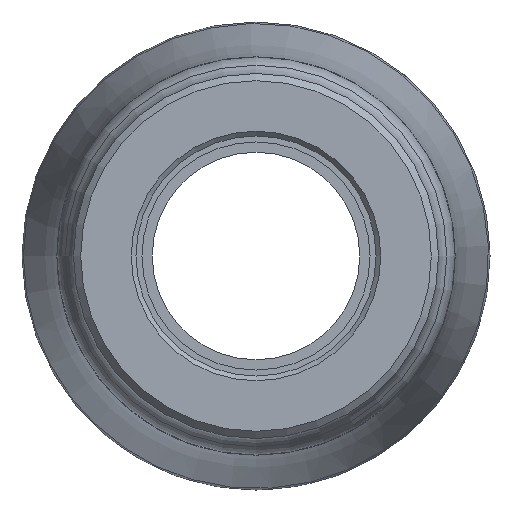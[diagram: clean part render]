
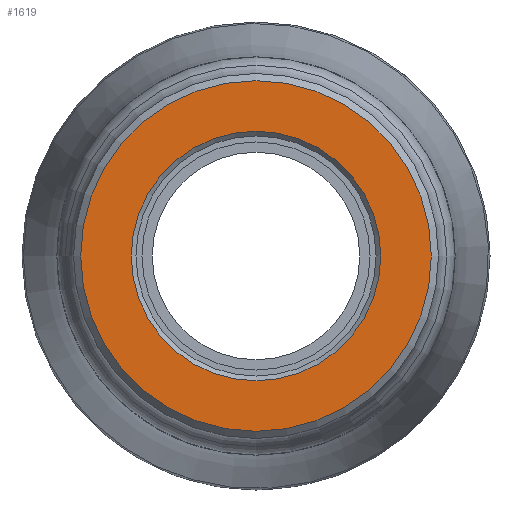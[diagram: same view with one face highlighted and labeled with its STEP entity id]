
A CAD part, left-side view. The second image highlights one B-rep face of the part: STEP entity #1619.
In plain terms, the highlighted planar face has unit normal (-1, 0, 0).
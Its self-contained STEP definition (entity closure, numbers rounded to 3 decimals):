
#29=FACE_BOUND('',#401,.T.);
#212=PLANE('',#1776);
#290=FACE_OUTER_BOUND('',#400,.T.);
#400=EDGE_LOOP('',(#1219));
#401=EDGE_LOOP('',(#1220));
#542=CIRCLE('',#1775,12.529);
#543=CIRCLE('',#1777,17.606);
#728=VERTEX_POINT('',#2890);
#729=VERTEX_POINT('',#2893);
#910=EDGE_CURVE('',#728,#728,#542,.T.);
#911=EDGE_CURVE('',#729,#729,#543,.T.);
#1219=ORIENTED_EDGE('',*,*,#911,.F.);
#1220=ORIENTED_EDGE('',*,*,#910,.F.);
#1619=ADVANCED_FACE('',(#290,#29),#212,.T.);
#1775=AXIS2_PLACEMENT_3D('',#2891,#2067,#2068);
#1776=AXIS2_PLACEMENT_3D('',#2892,#2069,#2070);
#1777=AXIS2_PLACEMENT_3D('',#2894,#2071,#2072);
#2067=DIRECTION('center_axis',(-1.,0.,0.));
#2068=DIRECTION('ref_axis',(0.,-1.,0.));
#2069=DIRECTION('center_axis',(-1.,0.,0.));
#2070=DIRECTION('ref_axis',(0.,0.,1.));
#2071=DIRECTION('center_axis',(1.,0.,0.));
#2072=DIRECTION('ref_axis',(0.,-1.,0.));
#2890=CARTESIAN_POINT('',(0.,12.529,0.));
#2891=CARTESIAN_POINT('Origin',(0.,0.,0.));
#2892=CARTESIAN_POINT('Origin',(0.,18.33,0.));
#2893=CARTESIAN_POINT('',(0.,17.606,0.));
#2894=CARTESIAN_POINT('Origin',(0.,0.,0.));
